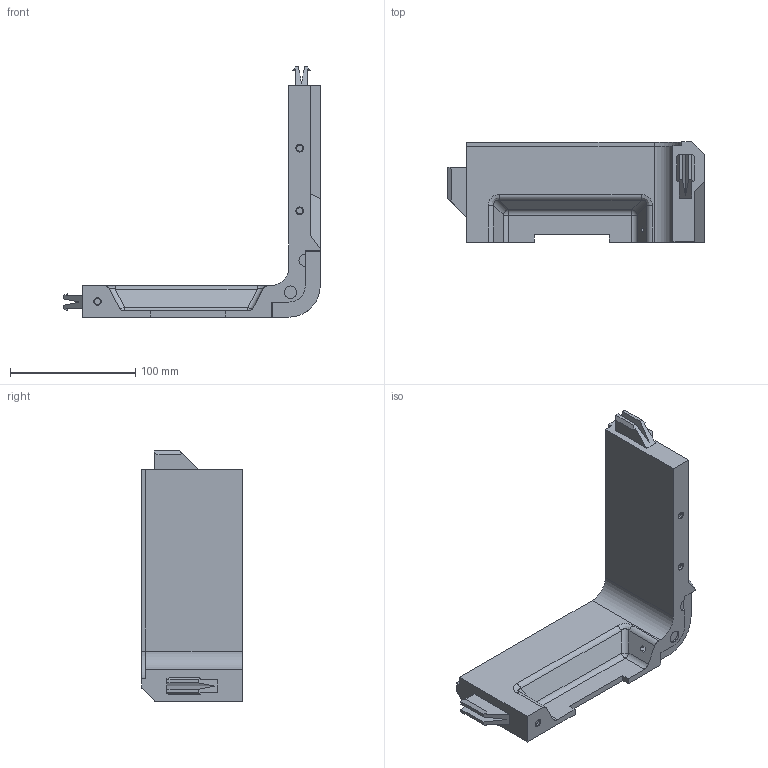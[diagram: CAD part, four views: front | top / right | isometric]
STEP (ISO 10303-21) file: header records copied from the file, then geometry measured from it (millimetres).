
FILE_DESCRIPTION (( 'STEP AP203' ), '1' );
FILE_NAME ('Ôö¸ß¼Ü-D.STEP', '2024-01-02T07:27:14', ( '' ), ( '' ), 'SwSTEP 2.0', 'SolidWorks 2014', '' );
FILE_SCHEMA (( 'CONFIG_CONTROL_DESIGN' ));
Length unit declared in the file: millimetre
Products named in the file (1): 崝詢殤-D
Bounding box: 205 x 80 x 199.95 mm (x, y, z)
Volume: 561686.1 mm3; surface area: 76041.6 mm2
Topology: 1 solids, 1 shells, 119 faces, 317 edges, 206 vertices
Faces by surface type: plane 74, cylinder 28, cone 7, bspline 6, torus 2, sphere 2
Entity records: 3861 total; most frequent: CARTESIAN_POINT 847, ORIENTED_EDGE 634, DIRECTION 582, EDGE_CURVE 317, LINE 228, VECTOR 228, VERTEX_POINT 206, AXIS2_PLACEMENT_3D 177
